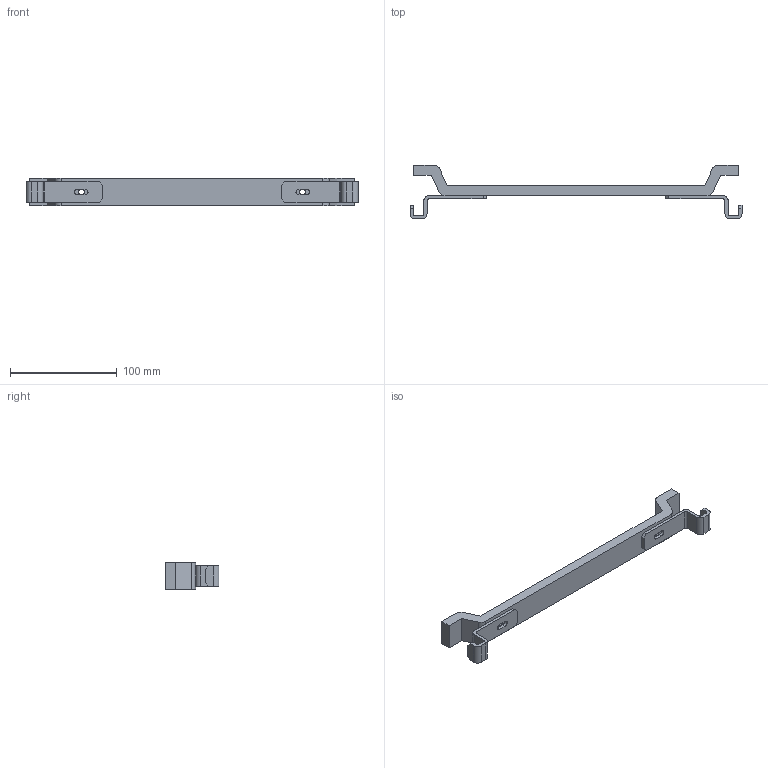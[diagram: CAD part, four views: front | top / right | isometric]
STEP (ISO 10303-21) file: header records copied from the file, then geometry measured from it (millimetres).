
FILE_DESCRIPTION (( 'STEP AP203' ), '1' );
FILE_NAME ('lmcm12g.STEP', '2015-05-11T13:19:58', ( '' ), ( '' ), 'SwSTEP 2.0', 'SolidWorks 2010', '' );
FILE_SCHEMA (( 'CONFIG_CONTROL_DESIGN' ));
Length unit declared in the file: inch
Products named in the file (3): 89120582_12Inch; 89120586; lmcm12g
Assembly tree (3 placements, depth 2):
  lmcm12g
    89120586  x2
    89120582_12Inch
Bounding box: 311.28 x 50.55 x 25.4 mm (x, y, z)
Volume: 90519.9 mm3; surface area: 32191.4 mm2
Topology: 3 solids, 3 shells, 76 faces, 210 edges, 140 vertices
Faces by surface type: plane 50, cylinder 26
Entity records: 1918 total; most frequent: CARTESIAN_POINT 280, DIRECTION 279, ORIENTED_EDGE 270, EDGE_CURVE 135, VECTOR 101, LINE 101, VERTEX_POINT 90, AXIS2_PLACEMENT_3D 89
